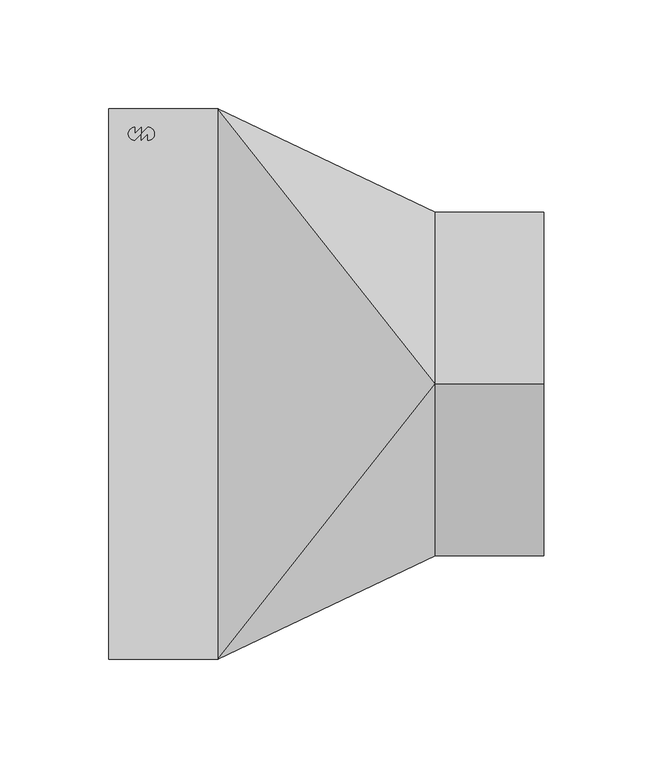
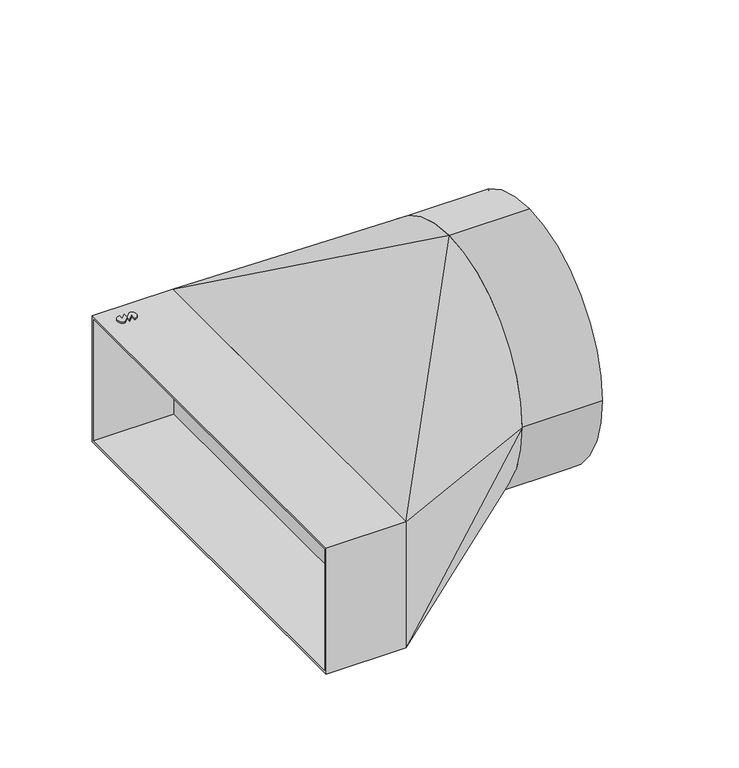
"""IFC4 building model written with IfcOpenShell, lengths in millimetres: duct fitting geometry, NLRS_57_DUF_UN_instortkanaal-rechthoekig-naar-rond-verloop_LT_velu : BZV (brede zijde vlak)."""

from ifc_helpers import new_model, si_unit, point, frame, frame_2d, origin, place, context, project, spatial, polyline, circle_curve, trimmed, segment, composite_curve, outline, extrude, source, transform, mapped, element, save
from ifc_brep_helpers import plane_surface, spline_surface, advanced_brep


def duct_fitting_acedd400(model_context):
    return source(origin(), model_context, "Body", "SolidModel", [
        extrude(outline(composite_curve([segment(polyline([(-82.0, 112.0), (-82.0, 115.0), (-85.0, 112.0), (-85.0, 115.0), (-82.0, 118.0)]), True, "CONTINUOUS"), segment(trimmed(circle_curve(frame_2d((-82.0, 115.0)), 3.0), [point((-82.0, 118.0))], [point((-82.0, 112.0))], False, "CARTESIAN"), True, "CONTINUOUS")], self_intersect=False)), frame((0.0, 0.0, -42.5), z_axis=(0.0, 0.0, 1.0), x_axis=(1.0, 0.0, 0.0)), (0.0, 0.0, 1.0), 1.0),
        extrude(outline(composite_curve([segment(polyline([(-88.0, 118.0), (-88.0, 115.0), (-85.0, 118.0), (-85.0, 115.0), (-88.0, 112.0)]), True, "CONTINUOUS"), segment(trimmed(circle_curve(frame_2d((-88.0, 115.0)), 3.0), [point((-88.0, 112.0))], [point((-88.0, 118.0))], False, "CARTESIAN"), True, "CONTINUOUS")], self_intersect=False)), frame((0.0, 0.0, -42.5), z_axis=(0.0, 0.0, 1.0), x_axis=(1.0, 0.0, 0.0)), (0.0, 0.0, 1.0), 1.0),
        extrude(outline(composite_curve([segment(polyline([(-88.0, 118.0), (-88.0, 115.0), (-85.0, 118.0), (-85.0, 115.0), (-88.0, 112.0)]), True, "CONTINUOUS"), segment(trimmed(circle_curve(frame_2d((-88.0, 115.0)), 3.0), [point((-88.0, 112.0))], [point((-88.0, 118.0))], False, "CARTESIAN"), True, "CONTINUOUS")], self_intersect=False)), frame((0.0, 0.0, 41.5), z_axis=(0.0, 0.0, 1.0), x_axis=(1.0, 0.0, 0.0)), (0.0, 0.0, 1.0), 1.0),
        extrude(outline(composite_curve([segment(polyline([(-82.0, 112.0), (-82.0, 115.0), (-85.0, 112.0), (-85.0, 115.0), (-82.0, 118.0)]), True, "CONTINUOUS"), segment(trimmed(circle_curve(frame_2d((-82.0, 115.0)), 3.0), [point((-82.0, 118.0))], [point((-82.0, 112.0))], False, "CARTESIAN"), True, "CONTINUOUS")], self_intersect=False)), frame((0.0, 0.0, 41.5), z_axis=(0.0, 0.0, 1.0), x_axis=(1.0, 0.0, 0.0)), (0.0, 0.0, 1.0), 1.0),
        extrude(outline(composite_curve([segment(trimmed(circle_curve(frame_2d((0.0, 40.0)), 79.0), [point((79.0, 40.0))], [point((0.0, -39.0))], False, "CARTESIAN"), True, "CONTINUOUS"), segment(trimmed(circle_curve(frame_2d((0.0, 40.0)), 79.0), [point((0.0, -39.0))], [point((-79.0, 40.0))], False, "CARTESIAN"), True, "CONTINUOUS"), segment(trimmed(circle_curve(frame_2d((0.0, 40.0)), 79.0), [point((-79.0, 40.0))], [point((0.0, 119.0))], False, "CARTESIAN"), True, "CONTINUOUS"), segment(trimmed(circle_curve(frame_2d((0.0, 40.0)), 79.0), [point((0.0, 119.0))], [point((79.0, 40.0))], False, "CARTESIAN"), True, "CONTINUOUS")], self_intersect=False), holes=[composite_curve([segment(trimmed(circle_curve(frame_2d((0.0, 40.0)), 78.0), [point((0.0, 118.0))], [point((-78.0, 40.0))], True, "CARTESIAN"), True, "CONTINUOUS"), segment(trimmed(circle_curve(frame_2d((0.0, 40.0)), 78.0), [point((-78.0, 40.0))], [point((0.0, -38.0))], True, "CARTESIAN"), True, "CONTINUOUS"), segment(trimmed(circle_curve(frame_2d((0.0, 40.0)), 78.0), [point((0.0, -38.0))], [point((78.0, 40.0))], True, "CARTESIAN"), True, "CONTINUOUS"), segment(trimmed(circle_curve(frame_2d((0.0, 40.0)), 78.0), [point((78.0, 40.0))], [point((0.0, 118.0))], True, "CARTESIAN"), True, "CONTINUOUS")], self_intersect=False)]), frame((50.0, 0.0, 0.0), z_axis=(1.0, 0.0, 0.0), x_axis=(0.0, 1.0, 0.0)), (0.0, 0.0, 1.0), 50.0),
        extrude(outline(polyline([(-126.5, 41.5), (126.5, 41.5), (126.5, -41.5), (-126.5, -41.5), (-126.5, 41.5)]), holes=[polyline([(-125.0, -40.0), (125.0, -40.0), (125.0, 40.0), (-125.0, 40.0), (-125.0, -40.0)])]), frame((-100.0, 0.0, 0.0), z_axis=(1.0, 0.0, 0.0), x_axis=(0.0, 1.0, 0.0)), (0.0, 0.0, 1.0), 50.0),
        advanced_brep(
        [(50.0, 0.0, 119.0), (50.0, -79.0, 40.0), (50.0, 0.0, -39.0), (50.0, 79.0, 40.0), (-50.0, -126.5, 41.5), (-50.0, 126.5, 41.5), (-50.0, 126.5, -41.5), (-50.0, -126.5, -41.5)],
        [
            (0, 1, circle_curve(frame((50.0, 0.0, 40.0), z_axis=(1.0, 0.0, 0.0), x_axis=(0.0, 1.0, 0.0)), 79.0)),
            (1, 2, circle_curve(frame((50.0, 0.0, 40.0), z_axis=(1.0, 0.0, 0.0), x_axis=(0.0, 1.0, 0.0)), 79.0)),
            (2, 3, circle_curve(frame((50.0, 0.0, 40.0), z_axis=(1.0, 0.0, 0.0), x_axis=(0.0, 1.0, 0.0)), 79.0)),
            (3, 0, circle_curve(frame((50.0, 0.0, 40.0), z_axis=(1.0, 0.0, 0.0), x_axis=(0.0, 1.0, 0.0)), 79.0)),
            (4, 5),
            (5, 6),
            (6, 7),
            (7, 4),
            (0, 4),
            (4, 1),
            (7, 1),
            (7, 2),
            (6, 2),
            (6, 3),
            (5, 3),
            (5, 0),
        ],
        [
            plane_surface(frame((50.0, 0.0, 40.0), z_axis=(1.0, 0.0, 0.0), x_axis=(0.0, 0.0, 1.0))),
            plane_surface(frame((-50.0, 0.0, 0.0), z_axis=(-1.0, 0.0, 0.0), x_axis=(0.0, 0.0, 1.0))),
            spline_surface(2, 1, [[(-50.0, -126.5, 41.5), (50.0, 0.0, 119.0)], [(-50.0, -126.5, 41.5), (50.0, -79.0, 119.0)], [(-50.0, -126.5, 41.5), (50.0, -79.0, 40.0)]], [3, 3], [2, 2], [0.0, 1.0], [0.0, 1.0], weights=[[1.0, 1.0], [0.7071067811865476, 0.7071067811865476], [1.0, 1.0]]),
            plane_surface(frame((-50.0, -126.5, 0.0), z_axis=(0.42905681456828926, -0.9032775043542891, 0.0), x_axis=(0.0, 0.0, -1.0))),
            spline_surface(2, 1, [[(-50.0, -126.5, -41.5), (50.0, -79.0, 40.0)], [(-50.0, -126.5, -41.5), (50.0, -79.0, -39.0)], [(-50.0, -126.5, -41.5), (50.0, 0.0, -39.0)]], [3, 3], [2, 2], [0.0, 1.0], [0.0, 1.0], weights=[[1.0, 1.0], [0.7071067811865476, 0.7071067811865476], [1.0, 1.0]]),
            plane_surface(frame((-50.0, 0.0, -41.5), z_axis=(0.02499219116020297, 0.0, -0.9996876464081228), x_axis=(0.0, 1.0, 0.0))),
            spline_surface(2, 1, [[(-50.0, 126.5, -41.5), (50.0, 0.0, -39.0)], [(-50.0, 126.5, -41.5), (50.0, 79.0, -39.0)], [(-50.0, 126.5, -41.5), (50.0, 79.0, 40.0)]], [3, 3], [2, 2], [0.0, 1.0], [0.0, 1.0], weights=[[1.0, 1.0], [0.7071067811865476, 0.7071067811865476], [1.0, 1.0]]),
            plane_surface(frame((-50.0, 126.5, 0.0), z_axis=(0.4290568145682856, 0.9032775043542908, 0.0), x_axis=(0.0, 0.0, 1.0))),
            spline_surface(2, 1, [[(-50.0, 126.5, 41.5), (50.0, 79.0, 40.0)], [(-50.0, 126.5, 41.5), (50.0, 79.0, 119.0)], [(-50.0, 126.5, 41.5), (50.0, 0.0, 119.0)]], [3, 3], [2, 2], [0.0, 1.0], [0.0, 1.0], weights=[[1.0, 1.0], [0.7071067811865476, 0.7071067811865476], [1.0, 1.0]]),
            plane_surface(frame((-50.0, 0.0, 41.5), z_axis=(-0.6125716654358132, 0.0, 0.7904150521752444), x_axis=(0.0, -1.0, 0.0))),
        ],
        [
            (0, [[1, 2, 3, 4]]),
            (1, [[5, 6, 7, 8]]),
            (2, [[-1, 9, 10]]),
            (3, [[-8, 11, -10]]),
            (4, [[-2, -11, 12]]),
            (5, [[-7, 13, -12]]),
            (6, [[-3, -13, 14]]),
            (7, [[-6, 15, -14]]),
            (8, [[-4, -15, 16]]),
            (9, [[-5, -9, -16]]),
        ],
    ),
    ])


if __name__ == "__main__":
    model = new_model("IFC4")
    model_context = context("Model", 3, world=origin())
    ifc_project = project(units=[si_unit("LENGTHUNIT", "METRE", prefix="MILLI")], contexts=[model_context])
    site = spatial("IfcSite", under=ifc_project)
    building = spatial("IfcBuilding", under=site)
    placement = place(None, origin())
    duct_fitting_shape = duct_fitting_acedd400(model_context)
    element("IfcDuctFitting", 1, ObjectType="NLRS_57_DUF_UN_instortkanaal-rechthoekig-naar-rond-verloop_LT_velu : BZV (brede zijde vlak)", at=placement, inside=building, context=model_context, shape_type="MappedRepresentation", body=[
        mapped(duct_fitting_shape, transform((0.0, 0.0, 0.0), x_axis=(1.0, 0.0, 0.0), y_axis=(0.0, 1.0, 0.0), z_axis=(0.0, 0.0, 1.0))),
    ])
    save(model, "model.ifc")
